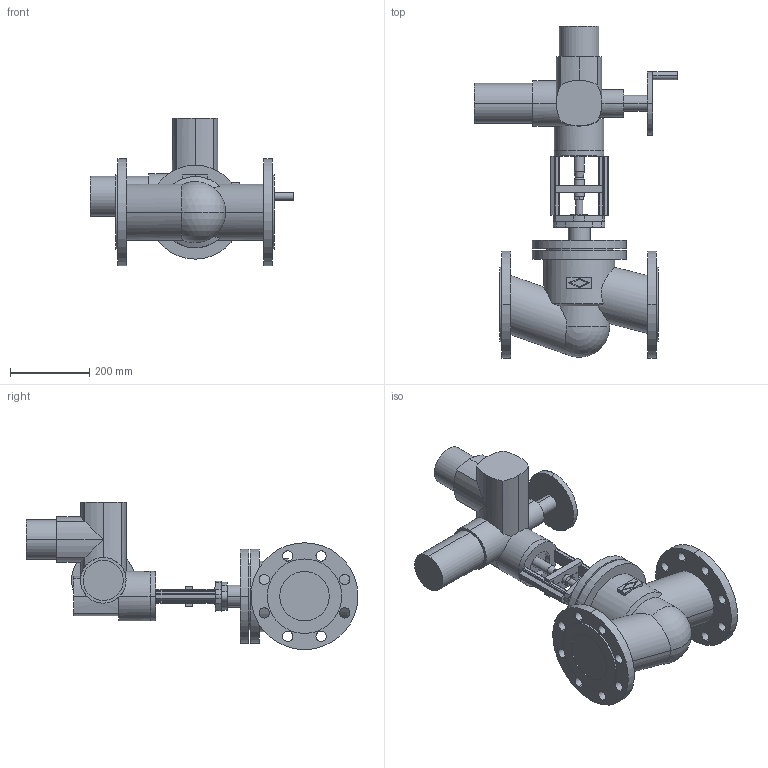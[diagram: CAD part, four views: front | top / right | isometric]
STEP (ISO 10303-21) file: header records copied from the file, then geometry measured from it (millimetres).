
FILE_DESCRIPTION(('OneSpaceDesigner STEP Export'),'2;1');
FILE_NAME('c000003106.stp','2007-01-09T11:42:55',(''),(''),'OneSpace Designer STEP processor for AP214 (Solid Model)','OneSpace Designer 14.00B 27-May-2006 (C) CoCreate Software GmbH','');
FILE_SCHEMA(('AUTOMOTIVE_DESIGN { 1 0 10303 214 1 1 1 1 }'));
Length unit declared in the file: millimetre
Products named in the file (3): 1; 2; 3
Bounding box: 514 x 838 x 372 mm (x, y, z)
Volume: 21581640.2 mm3; surface area: 1080736.2 mm2
Topology: 3 solids, 3 shells, 280 faces, 713 edges, 452 vertices
Faces by surface type: cylinder 144, plane 128, cone 6, sphere 2
Entity records: 8277 total; most frequent: CARTESIAN_POINT 1908, ORIENTED_EDGE 1422, DIRECTION 1177, EDGE_CURVE 711, VERTEX_POINT 452, AXIS2_PLACEMENT_3D 402, VECTOR 373, LINE 373
